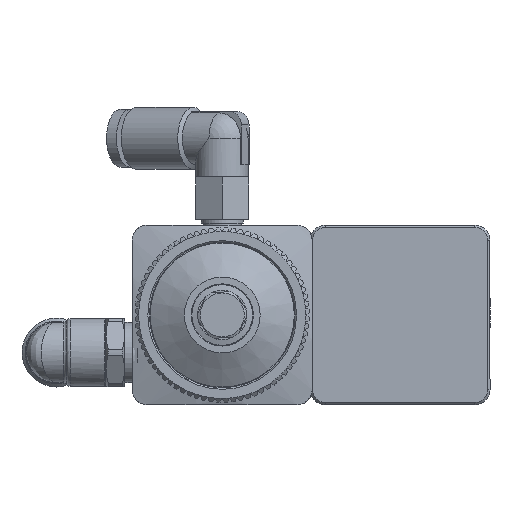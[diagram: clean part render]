
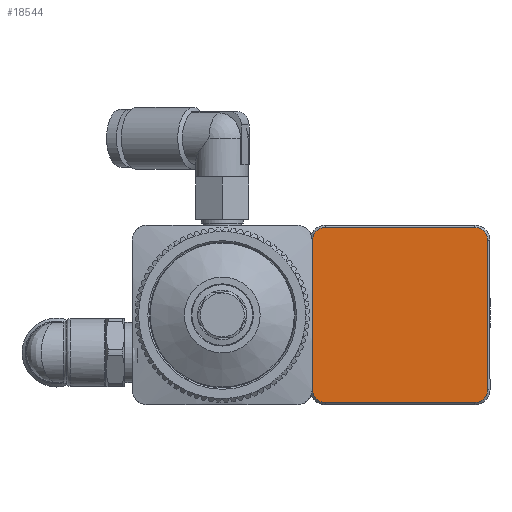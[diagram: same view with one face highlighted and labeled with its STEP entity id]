
A CAD part, front view. The second image highlights one B-rep face of the part: STEP entity #18544.
In plain terms, the highlighted planar face has unit normal (0, -1, 0).
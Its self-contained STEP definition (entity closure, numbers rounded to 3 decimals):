
#1256 = DIRECTION ( 'NONE',  ( 0., 0., 1. ) ) ;
#1814 = EDGE_CURVE ( 'NONE', #23097, #8010, #44495, .T. ) ;
#2058 = CARTESIAN_POINT ( 'NONE',  ( 309.85, -26.85, -11.55 ) ) ;
#2100 = ORIENTED_EDGE ( 'NONE', *, *, #31303, .T. ) ;
#4102 = VERTEX_POINT ( 'NONE', #33004 ) ;
#4558 = CARTESIAN_POINT ( 'NONE',  ( 288.45, -26.85, 0. ) ) ;
#4675 = VECTOR ( 'NONE', #40879, 1000. ) ;
#5642 = VERTEX_POINT ( 'NONE', #45123 ) ;
#6532 = EDGE_CURVE ( 'NONE', #46901, #49568, #15129, .T. ) ;
#8010 = VERTEX_POINT ( 'NONE', #38673 ) ;
#8286 = PLANE ( 'NONE',  #19663 ) ;
#9058 = EDGE_CURVE ( 'NONE', #31922, #13458, #20851, .T. ) ;
#11974 = DIRECTION ( 'NONE',  ( 0., -1., 0. ) ) ;
#13458 = VERTEX_POINT ( 'NONE', #30157 ) ;
#15129 = LINE ( 'NONE', #23424, #39992 ) ;
#15635 = DIRECTION ( 'NONE',  ( 1., 0., 0. ) ) ;
#15887 = AXIS2_PLACEMENT_3D ( 'NONE', #41005, #29573, #30102 ) ;
#16896 = AXIS2_PLACEMENT_3D ( 'NONE', #25394, #41227, #21477 ) ;
#18544 = ADVANCED_FACE ( 'NONE', ( #20464 ), #8286, .F. ) ;
#19663 = AXIS2_PLACEMENT_3D ( 'NONE', #32927, #28022, #1256 ) ;
#19707 = CIRCLE ( 'NONE', #32196, 1.7 ) ;
#20021 = CIRCLE ( 'NONE', #15887, 1.7 ) ;
#20283 = CARTESIAN_POINT ( 'NONE',  ( 300., -26.85, 11.55 ) ) ;
#20357 = CARTESIAN_POINT ( 'NONE',  ( 290.15, -26.85, -11.55 ) ) ;
#20464 = FACE_OUTER_BOUND ( 'NONE', #23321, .T. ) ;
#20851 = LINE ( 'NONE', #48088, #33452 ) ;
#21477 = DIRECTION ( 'NONE',  ( 0., 0., 1. ) ) ;
#23097 = VERTEX_POINT ( 'NONE', #47442 ) ;
#23321 = EDGE_LOOP ( 'NONE', ( #50753, #40433, #31478, #2100, #42115, #29661, #41223, #43967 ) ) ;
#23424 = CARTESIAN_POINT ( 'NONE',  ( 300., -26.85, -11.55 ) ) ;
#24635 = EDGE_CURVE ( 'NONE', #8010, #46901, #19707, .T. ) ;
#25394 = CARTESIAN_POINT ( 'NONE',  ( 309.85, -26.85, 9.85 ) ) ;
#26665 = CARTESIAN_POINT ( 'NONE',  ( 290.15, -26.85, -9.85 ) ) ;
#26808 = CIRCLE ( 'NONE', #32634, 1.7 ) ;
#27703 = CIRCLE ( 'NONE', #16896, 1.7 ) ;
#28022 = DIRECTION ( 'NONE',  ( 0., 1., 0. ) ) ;
#28312 = CARTESIAN_POINT ( 'NONE',  ( 290.15, -26.85, 9.85 ) ) ;
#29573 = DIRECTION ( 'NONE',  ( 0., -1., 0. ) ) ;
#29661 = ORIENTED_EDGE ( 'NONE', *, *, #24635, .T. ) ;
#30102 = DIRECTION ( 'NONE',  ( 0., 0., 1. ) ) ;
#30157 = CARTESIAN_POINT ( 'NONE',  ( 311.55, -26.85, 9.85 ) ) ;
#30354 = VECTOR ( 'NONE', #36393, 1000. ) ;
#31303 = EDGE_CURVE ( 'NONE', #4102, #23097, #26808, .T. ) ;
#31478 = ORIENTED_EDGE ( 'NONE', *, *, #40678, .T. ) ;
#31922 = VERTEX_POINT ( 'NONE', #42743 ) ;
#32196 = AXIS2_PLACEMENT_3D ( 'NONE', #26665, #49216, #37565 ) ;
#32312 = DIRECTION ( 'NONE',  ( 0., 0., 1. ) ) ;
#32501 = LINE ( 'NONE', #20283, #30354 ) ;
#32634 = AXIS2_PLACEMENT_3D ( 'NONE', #28312, #11974, #44139 ) ;
#32927 = CARTESIAN_POINT ( 'NONE',  ( 300., -26.85, 0. ) ) ;
#33004 = CARTESIAN_POINT ( 'NONE',  ( 290.15, -26.85, 11.55 ) ) ;
#33452 = VECTOR ( 'NONE', #32312, 1000. ) ;
#36393 = DIRECTION ( 'NONE',  ( -1., 0., 0. ) ) ;
#37565 = DIRECTION ( 'NONE',  ( 0., 0., 1. ) ) ;
#38001 = EDGE_CURVE ( 'NONE', #13458, #5642, #27703, .T. ) ;
#38673 = CARTESIAN_POINT ( 'NONE',  ( 288.45, -26.85, -9.85 ) ) ;
#39992 = VECTOR ( 'NONE', #15635, 1000. ) ;
#40433 = ORIENTED_EDGE ( 'NONE', *, *, #38001, .T. ) ;
#40678 = EDGE_CURVE ( 'NONE', #5642, #4102, #32501, .T. ) ;
#40879 = DIRECTION ( 'NONE',  ( 0., 0., -1. ) ) ;
#41005 = CARTESIAN_POINT ( 'NONE',  ( 309.85, -26.85, -9.85 ) ) ;
#41223 = ORIENTED_EDGE ( 'NONE', *, *, #6532, .T. ) ;
#41227 = DIRECTION ( 'NONE',  ( 0., -1., 0. ) ) ;
#42115 = ORIENTED_EDGE ( 'NONE', *, *, #1814, .T. ) ;
#42743 = CARTESIAN_POINT ( 'NONE',  ( 311.55, -26.85, -9.85 ) ) ;
#43967 = ORIENTED_EDGE ( 'NONE', *, *, #49522, .T. ) ;
#44139 = DIRECTION ( 'NONE',  ( 0., 0., 1. ) ) ;
#44495 = LINE ( 'NONE', #4558, #4675 ) ;
#45123 = CARTESIAN_POINT ( 'NONE',  ( 309.85, -26.85, 11.55 ) ) ;
#46901 = VERTEX_POINT ( 'NONE', #20357 ) ;
#47442 = CARTESIAN_POINT ( 'NONE',  ( 288.45, -26.85, 9.85 ) ) ;
#48088 = CARTESIAN_POINT ( 'NONE',  ( 311.55, -26.85, 0. ) ) ;
#49216 = DIRECTION ( 'NONE',  ( 0., -1., 0. ) ) ;
#49522 = EDGE_CURVE ( 'NONE', #49568, #31922, #20021, .T. ) ;
#49568 = VERTEX_POINT ( 'NONE', #2058 ) ;
#50753 = ORIENTED_EDGE ( 'NONE', *, *, #9058, .T. ) ;
